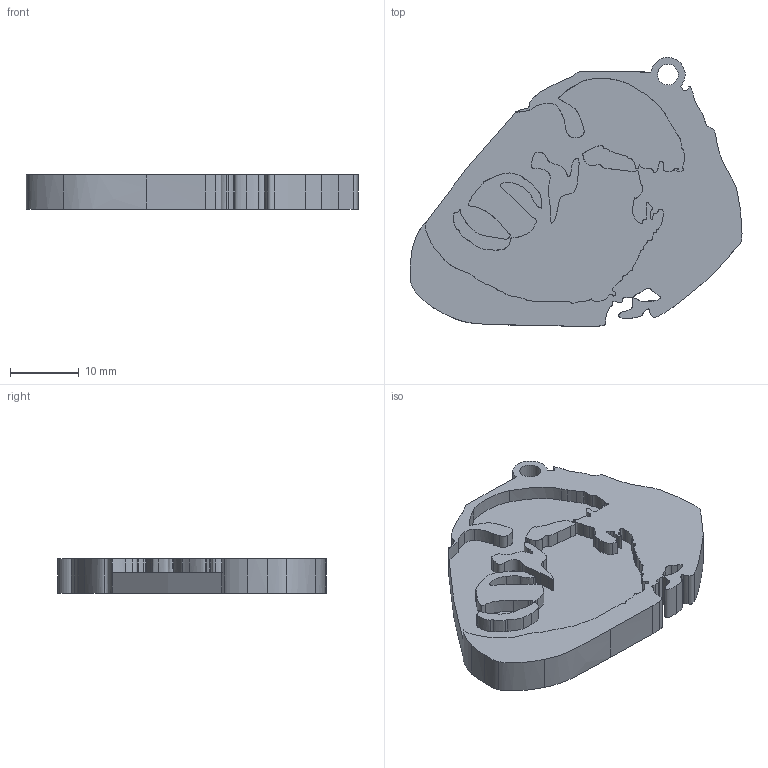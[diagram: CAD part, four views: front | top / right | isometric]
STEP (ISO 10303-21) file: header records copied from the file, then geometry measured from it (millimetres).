
FILE_DESCRIPTION(/* description */ (''),/* implementation_level */ '2;1');
FILE_NAME(/* name */ '',/* time_stamp */ '2025-04-26T21:46:08+09:00',/* author */ (''),/* organization */ (''),/* preprocessor_version */ 'ST-DEVELOPER v20.1',/* originating_system */ 'Autodesk Translation Framework v14.4.0.0',/* authorisation */ '');
FILE_SCHEMA (('AUTOMOTIVE_DESIGN { 1 0 10303 214 3 1 1 }'));
Length unit declared in the file: millimetre
Products named in the file (1): (未保存)
Bounding box: 48.24 x 39.08 x 5 mm (x, y, z)
Volume: 5184.9 mm3; surface area: 4112.1 mm2
Topology: 1 solids, 1 shells, 491 faces, 1447 edges, 968 vertices
Faces by surface type: bspline 421, plane 68, cylinder 2
Full cylindrical faces by diameter (mm): 3 x1
Entity records: 17851 total; most frequent: CARTESIAN_POINT 7688, ORIENTED_EDGE 2894, EDGE_CURVE 1447, VERTEX_POINT 968, B_SPLINE_CURVE_WITH_KNOTS 863, DIRECTION 728, LINE 578, VECTOR 578
